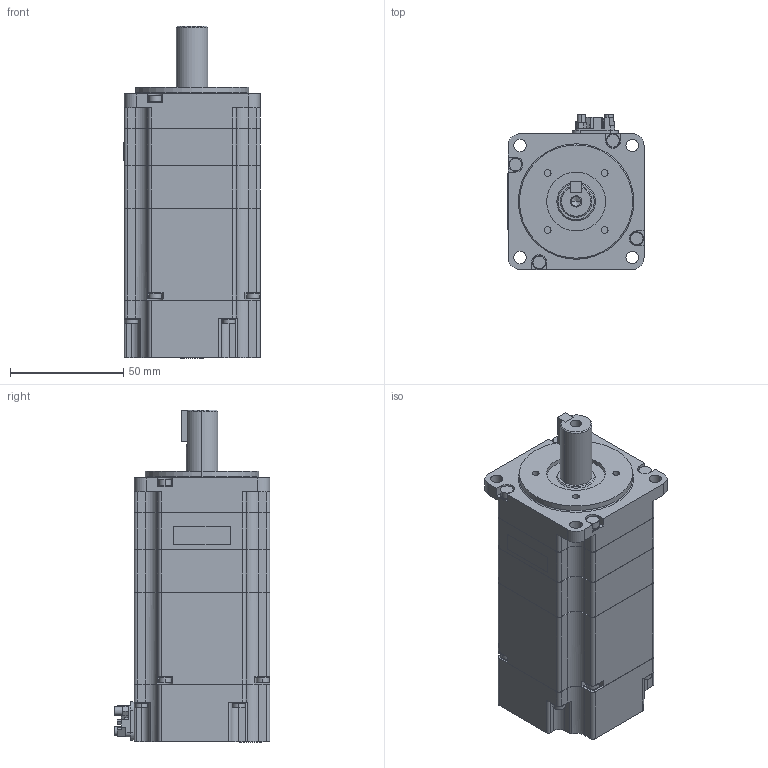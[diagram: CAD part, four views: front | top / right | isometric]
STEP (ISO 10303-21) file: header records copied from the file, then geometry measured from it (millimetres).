
FILE_DESCRIPTION( (''), '2;1');
FILE_NAME ('sgmxj_02awa6ca_.stp','2024-03-08T09:37:45',(''),(''),'spGate 15.6.6','','');
FILE_SCHEMA (('AUTOMOTIVE_DESIGN'));
Length unit declared in the file: millimetre
Products named in the file (3): Assembly; sgmxj_02awa6ca_-prt0; sgmxj_02awa6ca_-prt1
Assembly tree (2 placements, depth 2):
  Assembly
    sgmxj_02awa6ca_-prt0
    sgmxj_02awa6ca_-prt1
Bounding box: 60.1 x 68.8 x 146.6 mm (x, y, z)
Volume: 378802.2 mm3; surface area: 40004.7 mm2
Topology: 2 solids, 2 shells, 534 faces, 1410 edges, 935 vertices
Faces by surface type: plane 306, cylinder 221, bspline 7
Entity records: 27902 total; most frequent: CARTESIAN_POINT 3113, DIRECTION 2838, ORIENTED_EDGE 2816, COLOUR_RGB 1944, PRESENTATION_STYLE_ASSIGNMENT 1944, STYLED_ITEM 1944, EDGE_CURVE 1408, DRAUGHTING_PRE_DEFINED_CURVE_FONT 1408
